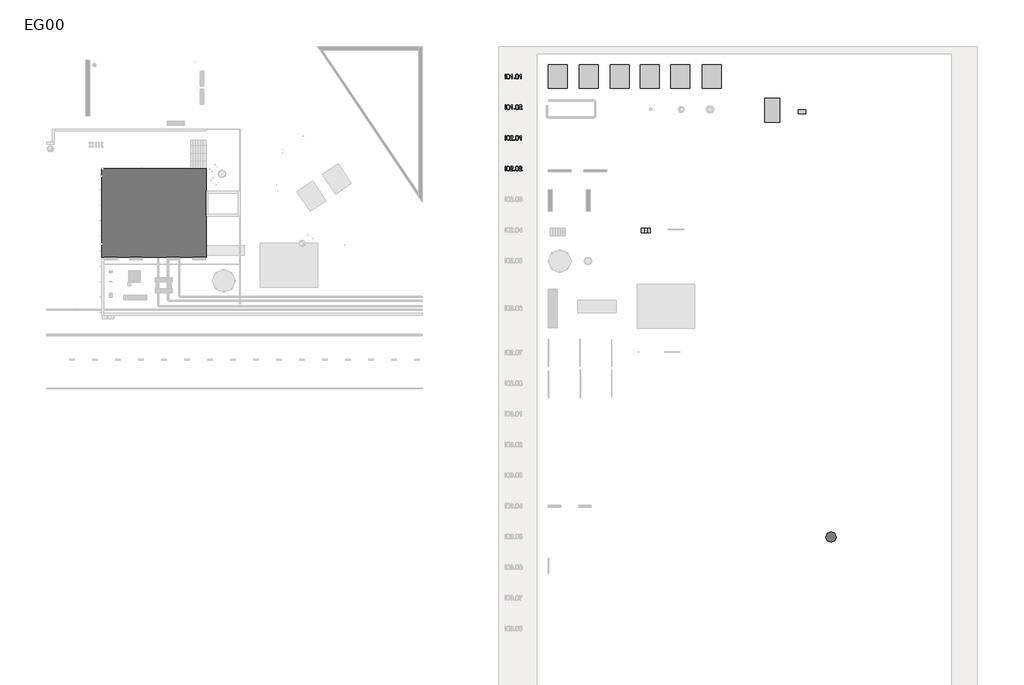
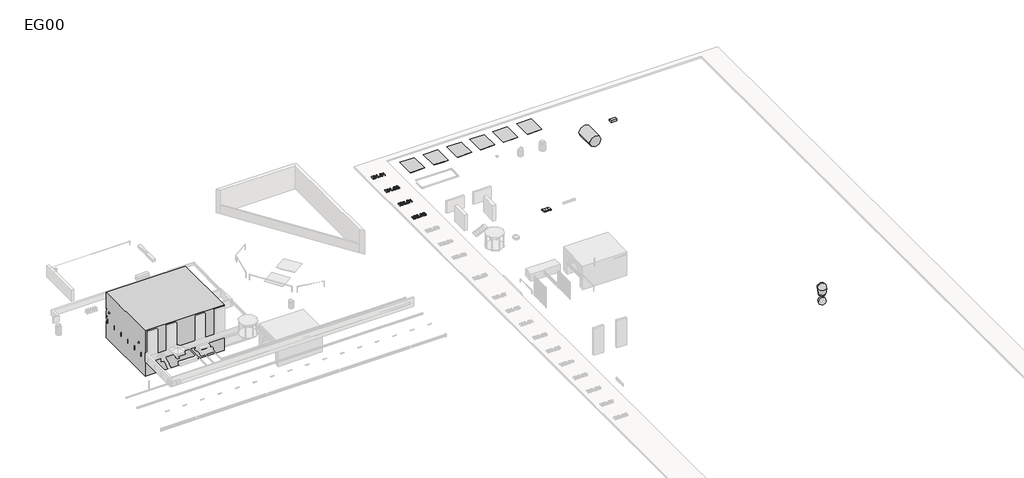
# One storey, part 11 of 11: 16 proxies, 1 geographic element.
"""IFC4 building model written with IfcOpenShell, lengths in millimetres."""

from ifc_helpers import new_model, si_unit, origin, origin_with_axes, place, context, project, spatial, polyline, outline, extrude, transform, mapped, element, save
from components import entourage_d020e230, generic_models_2e39bced, generic_models_d01fa1f0, generic_models_dca9c4f5, generic_models_00590af2, geographic_element_b5b1bfca

model = new_model("IFC4")

# Units and contexts
model_context = context("Model", 3, world=origin())
ifc_project = project(units=[si_unit("LENGTHUNIT", "METRE", prefix="MILLI")], contexts=[model_context])

# Site, building, storey
site = spatial("IfcSite", under=ifc_project)
building = spatial("IfcBuilding", under=site)
storey = spatial("IfcBuildingStorey", under=building, Name="EG00", Elevation=0.0)

# Proxies
placement = place(None, origin())
entourage_shape = entourage_d020e230(model_context)
element("IfcBuildingElementProxy", 1, Name="Umgebung_Blockstufe : Blockstufe", ObjectType="Umgebung_Blockstufe : Blockstufe", at=placement, inside=storey, context=model_context, shape_type="MappedRepresentation", body=[
    mapped(entourage_shape, transform((59229.2118759, -13539.8561498, 0.0), x_axis=(0.0, -1.0, 0.0), y_axis=(1.0, 0.0, 0.0), z_axis=(0.0, 0.0, 1.0))),
])
element("IfcBuildingElementProxy", 2, Name="Umgebung_Blockstufe : Blockstufe", ObjectType="Umgebung_Blockstufe : Blockstufe", at=placement, inside=storey, context=model_context, shape_type="MappedRepresentation", body=[
    mapped(entourage_shape, transform((59629.2118759, -13539.8561498, 0.0), x_axis=(0.0, -1.0, 0.0), y_axis=(1.0, 0.0, 0.0), z_axis=(0.0, 0.0, 1.0))),
])
element("IfcBuildingElementProxy", 3, Name="Umgebung_Blockstufe : Blockstufe", ObjectType="Umgebung_Blockstufe : Blockstufe", at=placement, inside=storey, context=model_context, shape_type="MappedRepresentation", body=[
    mapped(entourage_shape, transform((60029.2118759, -13539.8561498, 0.0), x_axis=(0.0, -1.0, 0.0), y_axis=(1.0, 0.0, 0.0), z_axis=(0.0, 0.0, 1.0))),
])
generic_models_shape = generic_models_2e39bced(model_context)
element("IfcBuildingElementProxy", 4, Name="Sickerpackung nach Schlammsammler : Sickerpackung nach Schlammsammler", ObjectType="Sickerpackung nach Schlammsammler : Sickerpackung nach Schlammsammler", at=placement, inside=storey, context=model_context, shape_type="MappedRepresentation", body=[
    mapped(generic_models_shape, transform((79824.829649, 1645.2181446, 0.0), x_axis=(-1.0, 0.0, 0.0), y_axis=(0.0, -1.0, 0.0), z_axis=(0.0, 0.0, 1.0))),
])
generic_models_2_shape = generic_models_d01fa1f0(model_context)
element("IfcBuildingElementProxy", 5, Name="Sickergalerie : Sickergalerie", ObjectType="Sickergalerie : Sickergalerie", at=placement, inside=storey, context=model_context, shape_type="MappedRepresentation", body=[
    mapped(generic_models_2_shape, transform((75933.272905, 266.1451304, 0.0), x_axis=(-1.0, 0.0, 0.0), y_axis=(0.0, -1.0, 0.0), z_axis=(0.0, 0.0, 1.0))),
])
generic_models_3_shape = generic_models_dca9c4f5(model_context)
element("IfcBuildingElementProxy", 6, Name="Auffüllung : Auffüllung", ObjectType="Auffüllung : Auffüllung", at=placement, inside=storey, context=model_context, shape_type="MappedRepresentation", body=[
    mapped(generic_models_3_shape, transform((69270.3941, 4674.1804992, 0.0), x_axis=(-1.0, 0.0, 0.0), y_axis=(0.0, -1.0, 0.0), z_axis=(0.0, 0.0, 1.0))),
])
element("IfcBuildingElementProxy", 7, Name="Bodenabtrag kontaminiert : Bodenabtrag kontaminiert", ObjectType="Bodenabtrag kontaminiert : Bodenabtrag kontaminiert", at=placement, inside=storey, context=model_context, shape_type="MappedRepresentation", body=[
    mapped(generic_models_3_shape, transform((61210.504948, 4674.1804992, 0.0), x_axis=(-1.0, 0.0, 0.0), y_axis=(0.0, -1.0, 0.0), z_axis=(0.0, 0.0, 1.0))),
])
element("IfcBuildingElementProxy", 8, Name="Bodenabtrag nicht kontaminiert : Bodenabtrag nicht kontaminiert", ObjectType="Bodenabtrag nicht kontaminiert : Bodenabtrag nicht kontaminiert", at=placement, inside=storey, context=model_context, shape_type="MappedRepresentation", body=[
    mapped(generic_models_3_shape, transform((57278.272905, 4674.1804992, 0.0), x_axis=(-1.0, 0.0, 0.0), y_axis=(0.0, -1.0, 0.0), z_axis=(0.0, 0.0, 1.0))),
])
element("IfcBuildingElementProxy", 9, Name="Aushub kontaminiert : Aushub kontaminiert", ObjectType="Aushub kontaminiert : Aushub kontaminiert", at=placement, inside=storey, context=model_context, shape_type="MappedRepresentation", body=[
    mapped(generic_models_3_shape, transform((53273.504948, 4674.1804992, 0.0), x_axis=(-1.0, 0.0, 0.0), y_axis=(0.0, -1.0, 0.0), z_axis=(0.0, 0.0, 1.0))),
])
element("IfcBuildingElementProxy", 10, Name="Bodenauftrag, Schüttung : Bodenauftrag, Schüttung", ObjectType="Bodenauftrag, Schüttung : Bodenauftrag, Schüttung", at=placement, inside=storey, context=model_context, shape_type="MappedRepresentation", body=[
    mapped(generic_models_3_shape, transform((65173.272905, 4674.1804992, 0.0), x_axis=(-1.0, 0.0, 0.0), y_axis=(0.0, -1.0, 0.0), z_axis=(0.0, 0.0, 1.0))),
])
element("IfcBuildingElementProxy", 11, Name="Aushub nicht kontaminiert : Aushub nicht kontaminiert", ObjectType="Aushub nicht kontaminiert : Aushub nicht kontaminiert", at=placement, inside=storey, context=model_context, shape_type="MappedRepresentation", body=[
    mapped(generic_models_3_shape, transform((49212.626143, 4674.1804992, 0.0), x_axis=(-1.0, 0.0, 0.0), y_axis=(0.0, -1.0, 0.0), z_axis=(0.0, 0.0, 1.0))),
])
generic_models_4_shape = generic_models_00590af2(model_context)
element("IfcBuildingElementProxy", 12, Name="Gebaude2 : Gebaude", ObjectType="Gebaude2 : Gebaude", at=placement, inside=storey, context=model_context, shape_type="MappedRepresentation", body=[
    mapped(generic_models_4_shape, transform((0.0, 0.0, 0.0), x_axis=(1.0, 0.0, 0.0), y_axis=(0.0, 1.0, 0.0), z_axis=(0.0, 0.0, 1.0))),
])
element("IfcBuildingElementProxy", 13, Name="600mm Arial", ObjectType="600mm Arial", at=placement, inside=storey, context=model_context, shape_type="SweptSolid", body=[
    extrude(outline(polyline([(41098.4530284, 5929.9470981), (41098.4530284, 6532.684959), (41173.795261, 6532.684959), (41173.795261, 5929.9470981), (41098.4530284, 5929.9470981)])), origin_with_axes(), (0.0, 0.0, 1.0), 150.0),
    extrude(outline(polyline([(41296.226389, 6226.4599863), (41301.763013, 6322.9370395), (41308.6837931, 6363.8501159), (41318.3728851, 6399.8795588), (41330.7889025, 6431.3196738), (41345.8904584, 6458.4647665), (41363.6775528, 6481.3148369), (41384.1501859, 6499.8698851), (41407.3773353, 6514.2264799), (41433.4279791, 6524.4811905), (41462.3021172, 6530.6340169), (41493.9997496, 6532.684959), (41540.4264574, 6527.8289167), (41581.9971229, 6513.2607897), (41616.7619714, 6489.5507951), (41642.7712285, 6457.26915), (41662.416127, 6416.691766), (41678.0879, 6368.0945544), (41688.3518077, 6306.3823497), (41691.7731102, 6226.4599863), (41686.2916685, 6130.534756), (41679.4398663, 6089.7596354), (41669.8473433, 6053.7761777), (41657.527895, 6022.3222671), (41642.495317, 5995.1357877), (41624.7496092, 5972.2167394), (41604.2907718, 5953.5651222), (41581.0360312, 5939.1119583), (41554.9026139, 5928.7882699), (41525.8905201, 5922.5940568), (41493.9997496, 5920.5293191), (41452.5026606, 5924.1161685), (41415.7144611, 5934.8767169), (41383.6351511, 5952.8109641), (41356.2647306, 5977.9189103), (41329.9979562, 6023.3063515), (41311.2359744, 6079.8590112), (41299.9787854, 6147.5768894), (41296.226389, 6226.4599863)]), holes=[polyline([(41371.5686216, 6226.6071391), (41373.7759136, 6161.1103483), (41380.3977895, 6108.0939543), (41391.4342494, 6067.557957), (41406.8852932, 6039.5023563), (41425.5736985, 6020.4138793), (41446.3222431, 6006.7792528), (41469.1309268, 5998.598477), (41493.9997496, 5995.8715517), (41518.8685725, 5998.607674), (41541.6772562, 6006.816041), (41562.4258007, 6020.4966527), (41581.1142061, 6039.6495091), (41596.5652499, 6067.751095), (41607.6017097, 6108.2778953), (41614.2235857, 6161.22991), (41616.4308776, 6226.6071391), (41614.2971621, 6290.3702859), (41607.8960153, 6342.4531793), (41597.2274375, 6382.8558195), (41582.2914285, 6411.5782062), (41563.9157228, 6431.6001838), (41542.928055, 6445.9015964), (41519.328425, 6454.4824439), (41493.1168328, 6457.3427264), (41468.3767687, 6454.8227348), (41445.9543611, 6447.2627598), (41425.84961, 6434.6628014), (41408.0625156, 6417.0228598), (41392.096437, 6385.7528902), (41380.6920951, 6343.5936135), (41373.84949, 6290.5450298), (41371.5686216, 6226.6071391)])]), origin_with_axes(), (0.0, 0.0, 1.0), 150.0),
    extrude(outline(polyline([(42040.2309361, 5929.9470981), (41964.8887035, 5929.9470981), (41964.8887035, 6399.6588296), (41933.4347929, 6374.2197896), (41893.5195964, 6348.8175378), (41851.6178371, 6326.6158594), (41814.2042382, 6310.7785395), (41814.2042382, 6382.0004938), (41873.3780572, 6414.1901684), (41924.6424132, 6452.4866841), (41965.0542504, 6493.211221), (41991.6705127, 6532.684959), (42040.2309361, 6532.684959), (42040.2309361, 5929.9470981)])), origin_with_axes(), (0.0, 0.0, 1.0), 150.0),
    extrude(outline(polyline([(42256.8398548, 5929.9470981), (42256.8398548, 6005.2893308), (42332.1820874, 6005.2893308), (42332.1820874, 5929.9470981), (42256.8398548, 5929.9470981)])), origin_with_axes(), (0.0, 0.0, 1.0), 150.0),
    extrude(outline(polyline([(42454.6132154, 6226.4599863), (42460.1498395, 6322.9370395), (42467.0706195, 6363.8501159), (42476.7597115, 6399.8795588), (42489.1757289, 6431.3196738), (42504.2772848, 6458.4647665), (42522.0643792, 6481.3148369), (42542.5370123, 6499.8698851), (42565.7641618, 6514.2264799), (42591.8148055, 6524.4811905), (42620.6889436, 6530.6340169), (42652.386576, 6532.684959), (42698.8132838, 6527.8289167), (42740.3839493, 6513.2607897), (42775.1487978, 6489.5507951), (42801.1580549, 6457.26915), (42820.8029534, 6416.691766), (42836.4747264, 6368.0945544), (42846.7386341, 6306.3823497), (42850.1599366, 6226.4599863), (42844.6784949, 6130.534756), (42837.8266928, 6089.7596354), (42828.2341697, 6053.7761777), (42815.9147214, 6022.3222671), (42800.8821434, 5995.1357877), (42783.1364357, 5972.2167394), (42762.6775982, 5953.5651222), (42739.4228576, 5939.1119583), (42713.2894403, 5928.7882699), (42684.2773465, 5922.5940568), (42652.386576, 5920.5293191), (42610.889487, 5924.1161685), (42574.1012875, 5934.8767169), (42542.0219775, 5952.8109641), (42514.651557, 5977.9189103), (42488.3847826, 6023.3063515), (42469.6228008, 6079.8590112), (42458.3656118, 6147.5768894), (42454.6132154, 6226.4599863)]), holes=[polyline([(42529.955448, 6226.6071391), (42532.16274, 6161.1103483), (42538.7846159, 6108.0939543), (42549.8210758, 6067.557957), (42565.2721196, 6039.5023563), (42583.9605249, 6020.4138793), (42604.7090695, 6006.7792528), (42627.5177532, 5998.598477), (42652.386576, 5995.8715517), (42677.2553989, 5998.607674), (42700.0640826, 6006.816041), (42720.8126271, 6020.4966527), (42739.5010325, 6039.6495091), (42754.9520763, 6067.751095), (42765.9885362, 6108.2778953), (42772.6104121, 6161.22991), (42774.817704, 6226.6071391), (42772.6839885, 6290.3702859), (42766.2828417, 6342.4531793), (42755.6142639, 6382.8558195), (42740.6782549, 6411.5782062), (42722.3025492, 6431.6001838), (42701.3148814, 6445.9015964), (42677.7152514, 6454.4824439), (42651.5036593, 6457.3427264), (42626.7635951, 6454.8227348), (42604.3411875, 6447.2627598), (42584.2364364, 6434.6628014), (42566.449342, 6417.0228598), (42550.4832634, 6385.7528902), (42539.0789215, 6343.5936135), (42532.2363164, 6290.5450298), (42529.955448, 6226.6071391)])]), origin_with_axes(), (0.0, 0.0, 1.0), 150.0),
    extrude(outline(polyline([(43198.6177625, 5929.9470981), (43123.2755299, 5929.9470981), (43123.2755299, 6399.6588296), (43091.8216193, 6374.2197896), (43051.9064228, 6348.8175378), (43010.0046636, 6326.6158594), (42972.5910646, 6310.7785395), (42972.5910646, 6382.0004938), (43031.7648836, 6414.1901684), (43083.0292396, 6452.4866841), (43123.4410768, 6493.211221), (43150.0573391, 6532.684959), (43198.6177625, 6532.684959), (43198.6177625, 5929.9470981)])), origin_with_axes(), (0.0, 0.0, 1.0), 150.0),
])
element("IfcBuildingElementProxy", 14, Name="600mm Arial", ObjectType="600mm Arial", at=placement, inside=storey, context=model_context, shape_type="SweptSolid", body=[
    extrude(outline(polyline([(41098.4530284, 1929.9470981), (41098.4530284, 2532.684959), (41173.795261, 2532.684959), (41173.795261, 1929.9470981), (41098.4530284, 1929.9470981)])), origin_with_axes(), (0.0, 0.0, 1.0), 150.0),
    extrude(outline(polyline([(41296.226389, 2226.4599863), (41301.763013, 2322.9370395), (41308.6837931, 2363.8501159), (41318.3728851, 2399.8795588), (41330.7889025, 2431.3196738), (41345.8904584, 2458.4647665), (41363.6775528, 2481.3148369), (41384.1501859, 2499.8698851), (41407.3773353, 2514.2264799), (41433.4279791, 2524.4811905), (41462.3021172, 2530.6340169), (41493.9997496, 2532.684959), (41540.4264574, 2527.8289167), (41581.9971229, 2513.2607897), (41616.7619714, 2489.5507951), (41642.7712285, 2457.26915), (41662.416127, 2416.691766), (41678.0879, 2368.0945544), (41688.3518077, 2306.3823497), (41691.7731102, 2226.4599863), (41686.2916685, 2130.534756), (41679.4398663, 2089.7596354), (41669.8473433, 2053.7761777), (41657.527895, 2022.3222671), (41642.495317, 1995.1357877), (41624.7496092, 1972.2167394), (41604.2907718, 1953.5651222), (41581.0360312, 1939.1119583), (41554.9026139, 1928.7882699), (41525.8905201, 1922.5940568), (41493.9997496, 1920.5293191), (41452.5026606, 1924.1161685), (41415.7144611, 1934.8767169), (41383.6351511, 1952.8109641), (41356.2647306, 1977.9189103), (41329.9979562, 2023.3063515), (41311.2359744, 2079.8590112), (41299.9787854, 2147.5768894), (41296.226389, 2226.4599863)]), holes=[polyline([(41371.5686216, 2226.6071391), (41373.7759136, 2161.1103483), (41380.3977895, 2108.0939543), (41391.4342494, 2067.557957), (41406.8852932, 2039.5023563), (41425.5736985, 2020.4138793), (41446.3222431, 2006.7792528), (41469.1309268, 1998.598477), (41493.9997496, 1995.8715517), (41518.8685725, 1998.607674), (41541.6772562, 2006.816041), (41562.4258007, 2020.4966527), (41581.1142061, 2039.6495091), (41596.5652499, 2067.751095), (41607.6017097, 2108.2778953), (41614.2235857, 2161.22991), (41616.4308776, 2226.6071391), (41614.2971621, 2290.3702859), (41607.8960153, 2342.4531793), (41597.2274375, 2382.8558195), (41582.2914285, 2411.5782062), (41563.9157228, 2431.6001838), (41542.928055, 2445.9015964), (41519.328425, 2454.4824439), (41493.1168328, 2457.3427264), (41468.3767687, 2454.8227348), (41445.9543611, 2447.2627598), (41425.84961, 2434.6628014), (41408.0625156, 2417.0228598), (41392.096437, 2385.7528902), (41380.6920951, 2343.5936135), (41373.84949, 2290.5450298), (41371.5686216, 2226.6071391)])]), origin_with_axes(), (0.0, 0.0, 1.0), 150.0),
    extrude(outline(polyline([(42040.2309361, 1929.9470981), (41964.8887035, 1929.9470981), (41964.8887035, 2399.6588296), (41933.4347929, 2374.2197896), (41893.5195964, 2348.8175378), (41851.6178371, 2326.6158594), (41814.2042382, 2310.7785395), (41814.2042382, 2382.0004938), (41873.3780572, 2414.1901684), (41924.6424132, 2452.4866841), (41965.0542504, 2493.211221), (41991.6705127, 2532.684959), (42040.2309361, 2532.684959), (42040.2309361, 1929.9470981)])), origin_with_axes(), (0.0, 0.0, 1.0), 150.0),
    extrude(outline(polyline([(42256.8398548, 1929.9470981), (42256.8398548, 2005.2893308), (42332.1820874, 2005.2893308), (42332.1820874, 1929.9470981), (42256.8398548, 1929.9470981)])), origin_with_axes(), (0.0, 0.0, 1.0), 150.0),
    extrude(outline(polyline([(42454.6132154, 2226.4599863), (42460.1498395, 2322.9370395), (42467.0706195, 2363.8501159), (42476.7597115, 2399.8795588), (42489.1757289, 2431.3196738), (42504.2772848, 2458.4647665), (42522.0643792, 2481.3148369), (42542.5370123, 2499.8698851), (42565.7641618, 2514.2264799), (42591.8148055, 2524.4811905), (42620.6889436, 2530.6340169), (42652.386576, 2532.684959), (42698.8132838, 2527.8289167), (42740.3839493, 2513.2607897), (42775.1487978, 2489.5507951), (42801.1580549, 2457.26915), (42820.8029534, 2416.691766), (42836.4747264, 2368.0945544), (42846.7386341, 2306.3823497), (42850.1599366, 2226.4599863), (42844.6784949, 2130.534756), (42837.8266928, 2089.7596354), (42828.2341697, 2053.7761777), (42815.9147214, 2022.3222671), (42800.8821434, 1995.1357877), (42783.1364357, 1972.2167394), (42762.6775982, 1953.5651222), (42739.4228576, 1939.1119583), (42713.2894403, 1928.7882699), (42684.2773465, 1922.5940568), (42652.386576, 1920.5293191), (42610.889487, 1924.1161685), (42574.1012875, 1934.8767169), (42542.0219775, 1952.8109641), (42514.651557, 1977.9189103), (42488.3847826, 2023.3063515), (42469.6228008, 2079.8590112), (42458.3656118, 2147.5768894), (42454.6132154, 2226.4599863)]), holes=[polyline([(42529.955448, 2226.6071391), (42532.16274, 2161.1103483), (42538.7846159, 2108.0939543), (42549.8210758, 2067.557957), (42565.2721196, 2039.5023563), (42583.9605249, 2020.4138793), (42604.7090695, 2006.7792528), (42627.5177532, 1998.598477), (42652.386576, 1995.8715517), (42677.2553989, 1998.607674), (42700.0640826, 2006.816041), (42720.8126271, 2020.4966527), (42739.5010325, 2039.6495091), (42754.9520763, 2067.751095), (42765.9885362, 2108.2778953), (42772.6104121, 2161.22991), (42774.817704, 2226.6071391), (42772.6839885, 2290.3702859), (42766.2828417, 2342.4531793), (42755.6142639, 2382.8558195), (42740.6782549, 2411.5782062), (42722.3025492, 2431.6001838), (42701.3148814, 2445.9015964), (42677.7152514, 2454.4824439), (42651.5036593, 2457.3427264), (42626.7635951, 2454.8227348), (42604.3411875, 2447.2627598), (42584.2364364, 2434.6628014), (42566.449342, 2417.0228598), (42550.4832634, 2385.7528902), (42539.0789215, 2343.5936135), (42532.2363164, 2290.5450298), (42529.955448, 2226.6071391)])]), origin_with_axes(), (0.0, 0.0, 1.0), 150.0),
    extrude(outline(polyline([(43302.2133323, 2005.2893308), (43302.2133323, 1929.9470981), (42906.6666111, 1929.9470981), (42908.3220801, 1956.47139), (42914.760015, 1981.8920359), (42933.3380558, 2022.487814), (42960.5245352, 2061.8695816), (42999.8511205, 2103.0907592), (43054.8494788, 2149.2047673), (43136.1513997, 2221.4200029), (43184.9325523, 2274.726104), (43199.1603884, 2296.5047181), (43209.3231285, 2317.9890267), (43215.4207726, 2339.1790296), (43217.4533206, 2360.0747269), (43215.5357357, 2379.733421), (43209.782981, 2397.8010255), (43200.1950565, 2414.2775404), (43186.7719622, 2429.1629656), (43170.2586592, 2441.491611), (43151.4001084, 2450.2977862), (43130.1963099, 2455.5814914), (43106.6472637, 2457.3427264), (43081.8382216, 2455.6228781), (43059.6503388, 2450.4633331), (43040.0836152, 2441.8640915), (43023.1380508, 2429.8251532), (43009.4298479, 2414.7511884), (42999.575209, 2397.0468674), (42993.5741339, 2376.7121901), (42991.4266228, 2353.7471566), (42916.0843902, 2363.1649357), (42922.5637118, 2402.0592596), (42934.3497312, 2436.0423589), (42951.4424484, 2465.1142336), (42973.8418634, 2489.2748836), (43001.0329414, 2508.2667916), (43032.5006476, 2521.8324402), (43068.2449819, 2529.9718293), (43108.2659445, 2532.684959), (43148.645592, 2529.6683267), (43184.5830644, 2520.6184296), (43216.0783617, 2505.5352678), (43243.1314839, 2484.4188413), (43264.8595142, 2458.8326485), (43280.3795359, 2430.340188), (43289.6915489, 2398.9414597), (43292.7955532, 2364.6364636), (43289.4478271, 2328.6024222), (43279.4046486, 2293.1937802), (43261.580766, 2257.1781328), (43234.8909272, 2219.3230755), (43192.3453745, 2174.1287724), (43126.9543498, 2116.0953877), (43040.2813518, 2043.6226346), (43006.2890554, 2005.2893308), (43302.2133323, 2005.2893308)])), origin_with_axes(), (0.0, 0.0, 1.0), 150.0),
])
element("IfcBuildingElementProxy", 15, Name="600mm Arial", ObjectType="600mm Arial", at=placement, inside=storey, context=model_context, shape_type="SweptSolid", body=[
    extrude(outline(polyline([(41098.4530284, -2070.0529019), (41098.4530284, -1467.315041), (41173.795261, -1467.315041), (41173.795261, -2070.0529019), (41098.4530284, -2070.0529019)])), origin_with_axes(), (0.0, 0.0, 1.0), 150.0),
    extrude(outline(polyline([(41296.226389, -1773.5400137), (41301.763013, -1677.0629605), (41308.6837931, -1636.1498841), (41318.3728851, -1600.1204412), (41330.7889025, -1568.6803262), (41345.8904584, -1541.5352335), (41363.6775528, -1518.6851631), (41384.1501859, -1500.1301149), (41407.3773353, -1485.7735201), (41433.4279791, -1475.5188095), (41462.3021172, -1469.3659831), (41493.9997496, -1467.315041), (41540.4264574, -1472.1710833), (41581.9971229, -1486.7392103), (41616.7619714, -1510.4492049), (41642.7712285, -1542.73085), (41662.416127, -1583.308234), (41678.0879, -1631.9054456), (41688.3518077, -1693.6176503), (41691.7731102, -1773.5400137), (41686.2916685, -1869.465244), (41679.4398663, -1910.2403646), (41669.8473433, -1946.2238223), (41657.527895, -1977.6777329), (41642.495317, -2004.8642123), (41624.7496092, -2027.7832606), (41604.2907718, -2046.4348778), (41581.0360312, -2060.8880417), (41554.9026139, -2071.2117301), (41525.8905201, -2077.4059432), (41493.9997496, -2079.4706809), (41452.5026606, -2075.8838315), (41415.7144611, -2065.1232831), (41383.6351511, -2047.1890359), (41356.2647306, -2022.0810897), (41329.9979562, -1976.6936485), (41311.2359744, -1920.1409888), (41299.9787854, -1852.4231106), (41296.226389, -1773.5400137)]), holes=[polyline([(41371.5686216, -1773.3928609), (41373.7759136, -1838.8896517), (41380.3977895, -1891.9060457), (41391.4342494, -1932.442043), (41406.8852932, -1960.4976437), (41425.5736985, -1979.5861207), (41446.3222431, -1993.2207472), (41469.1309268, -2001.401523), (41493.9997496, -2004.1284483), (41518.8685725, -2001.392326), (41541.6772562, -1993.183959), (41562.4258007, -1979.5033473), (41581.1142061, -1960.3504909), (41596.5652499, -1932.248905), (41607.6017097, -1891.7221047), (41614.2235857, -1838.77009), (41616.4308776, -1773.3928609), (41614.2971621, -1709.6297141), (41607.8960153, -1657.5468207), (41597.2274375, -1617.1441805), (41582.2914285, -1588.4217938), (41563.9157228, -1568.3998162), (41542.928055, -1554.0984036), (41519.328425, -1545.5175561), (41493.1168328, -1542.6572736), (41468.3767687, -1545.1772652), (41445.9543611, -1552.7372402), (41425.84961, -1565.3371986), (41408.0625156, -1582.9771402), (41392.096437, -1614.2471098), (41380.6920951, -1656.4063865), (41373.84949, -1709.4549702), (41371.5686216, -1773.3928609)])]), origin_with_axes(), (0.0, 0.0, 1.0), 150.0),
    extrude(outline(polyline([(42143.8265059, -1994.7106692), (42143.8265059, -2070.0529019), (41748.2797847, -2070.0529019), (41749.9352537, -2043.52861), (41756.3731886, -2018.1079641), (41774.9512293, -1977.512186), (41802.1377088, -1938.1304184), (41841.4642941, -1896.9092408), (41896.4626524, -1850.7952327), (41977.7645733, -1778.5799971), (42026.5457258, -1725.273896), (42040.773562, -1703.4952819), (42050.9363021, -1682.0109733), (42057.0339462, -1660.8209704), (42059.0664942, -1639.9252731), (42057.1489093, -1620.266579), (42051.3961546, -1602.1989745), (42041.8082301, -1585.7224596), (42028.3851358, -1570.8370344), (42011.8718328, -1558.508389), (41993.013282, -1549.7022138), (41971.8094835, -1544.4185086), (41948.2604373, -1542.6572736), (41923.4513952, -1544.3771219), (41901.2635124, -1549.5366669), (41881.6967888, -1558.1359085), (41864.7512244, -1570.1748468), (41851.0430215, -1585.2488116), (41841.1883826, -1602.9531326), (41835.1873075, -1623.2878099), (41833.0397964, -1646.2528434), (41757.6975638, -1636.8350643), (41764.1768854, -1597.9407404), (41775.9629048, -1563.9576411), (41793.055622, -1534.8857664), (41815.455037, -1510.7251164), (41842.646115, -1491.7332084), (41874.1138211, -1478.1675598), (41909.8581555, -1470.0281707), (41949.8791181, -1467.315041), (41990.2587655, -1470.3316733), (42026.1962379, -1479.3815704), (42057.6915353, -1494.4647322), (42084.7446575, -1515.5811587), (42106.4726878, -1541.1673515), (42121.9927095, -1569.659812), (42131.3047225, -1601.0585403), (42134.4087268, -1635.3635364), (42131.0610007, -1671.3975778), (42121.0178222, -1706.8062198), (42103.1939395, -1742.8218672), (42076.5041008, -1780.6769245), (42033.958548, -1825.8712276), (41968.5675234, -1883.9046123), (41881.8945253, -1956.3773654), (41847.902229, -1994.7106692), (42143.8265059, -1994.7106692)])), origin_with_axes(), (0.0, 0.0, 1.0), 150.0),
    extrude(outline(polyline([(42256.8398548, -2070.0529019), (42256.8398548, -1994.7106692), (42332.1820874, -1994.7106692), (42332.1820874, -2070.0529019), (42256.8398548, -2070.0529019)])), origin_with_axes(), (0.0, 0.0, 1.0), 150.0),
    extrude(outline(polyline([(42454.6132154, -1773.5400137), (42460.1498395, -1677.0629605), (42467.0706195, -1636.1498841), (42476.7597115, -1600.1204412), (42489.1757289, -1568.6803262), (42504.2772848, -1541.5352335), (42522.0643792, -1518.6851631), (42542.5370123, -1500.1301149), (42565.7641618, -1485.7735201), (42591.8148055, -1475.5188095), (42620.6889436, -1469.3659831), (42652.386576, -1467.315041), (42698.8132838, -1472.1710833), (42740.3839493, -1486.7392103), (42775.1487978, -1510.4492049), (42801.1580549, -1542.73085), (42820.8029534, -1583.308234), (42836.4747264, -1631.9054456), (42846.7386341, -1693.6176503), (42850.1599366, -1773.5400137), (42844.6784949, -1869.465244), (42837.8266928, -1910.2403646), (42828.2341697, -1946.2238223), (42815.9147214, -1977.6777329), (42800.8821434, -2004.8642123), (42783.1364357, -2027.7832606), (42762.6775982, -2046.4348778), (42739.4228576, -2060.8880417), (42713.2894403, -2071.2117301), (42684.2773465, -2077.4059432), (42652.386576, -2079.4706809), (42610.889487, -2075.8838315), (42574.1012875, -2065.1232831), (42542.0219775, -2047.1890359), (42514.651557, -2022.0810897), (42488.3847826, -1976.6936485), (42469.6228008, -1920.1409888), (42458.3656118, -1852.4231106), (42454.6132154, -1773.5400137)]), holes=[polyline([(42529.955448, -1773.3928609), (42532.16274, -1838.8896517), (42538.7846159, -1891.9060457), (42549.8210758, -1932.442043), (42565.2721196, -1960.4976437), (42583.9605249, -1979.5861207), (42604.7090695, -1993.2207472), (42627.5177532, -2001.401523), (42652.386576, -2004.1284483), (42677.2553989, -2001.392326), (42700.0640826, -1993.183959), (42720.8126271, -1979.5033473), (42739.5010325, -1960.3504909), (42754.9520763, -1932.248905), (42765.9885362, -1891.7221047), (42772.6104121, -1838.77009), (42774.817704, -1773.3928609), (42772.6839885, -1709.6297141), (42766.2828417, -1657.5468207), (42755.6142639, -1617.1441805), (42740.6782549, -1588.4217938), (42722.3025492, -1568.3998162), (42701.3148814, -1554.0984036), (42677.7152514, -1545.5175561), (42651.5036593, -1542.6572736), (42626.7635951, -1545.1772652), (42604.3411875, -1552.7372402), (42584.2364364, -1565.3371986), (42566.449342, -1582.9771402), (42550.4832634, -1614.2471098), (42539.0789215, -1656.4063865), (42532.2363164, -1709.4549702), (42529.955448, -1773.3928609)])]), origin_with_axes(), (0.0, 0.0, 1.0), 150.0),
    extrude(outline(polyline([(43198.6177625, -2070.0529019), (43123.2755299, -2070.0529019), (43123.2755299, -1600.3411704), (43091.8216193, -1625.7802104), (43051.9064228, -1651.1824622), (43010.0046636, -1673.3841406), (42972.5910646, -1689.2214605), (42972.5910646, -1617.9995062), (43031.7648836, -1585.8098316), (43083.0292396, -1547.5133159), (43123.4410768, -1506.788779), (43150.0573391, -1467.315041), (43198.6177625, -1467.315041), (43198.6177625, -2070.0529019)])), origin_with_axes(), (0.0, 0.0, 1.0), 150.0),
])
element("IfcBuildingElementProxy", 16, Name="600mm Arial", ObjectType="600mm Arial", at=placement, inside=storey, context=model_context, shape_type="SweptSolid", body=[
    extrude(outline(polyline([(41098.4530284, -6070.0529019), (41098.4530284, -5467.315041), (41173.795261, -5467.315041), (41173.795261, -6070.0529019), (41098.4530284, -6070.0529019)])), origin_with_axes(), (0.0, 0.0, 1.0), 150.0),
    extrude(outline(polyline([(41296.226389, -5773.5400137), (41301.763013, -5677.0629605), (41308.6837931, -5636.1498841), (41318.3728851, -5600.1204412), (41330.7889025, -5568.6803262), (41345.8904584, -5541.5352335), (41363.6775528, -5518.6851631), (41384.1501859, -5500.1301149), (41407.3773353, -5485.7735201), (41433.4279791, -5475.5188095), (41462.3021172, -5469.3659831), (41493.9997496, -5467.315041), (41540.4264574, -5472.1710833), (41581.9971229, -5486.7392103), (41616.7619714, -5510.4492049), (41642.7712285, -5542.73085), (41662.416127, -5583.308234), (41678.0879, -5631.9054456), (41688.3518077, -5693.6176503), (41691.7731102, -5773.5400137), (41686.2916685, -5869.465244), (41679.4398663, -5910.2403646), (41669.8473433, -5946.2238223), (41657.527895, -5977.6777329), (41642.495317, -6004.8642123), (41624.7496092, -6027.7832606), (41604.2907718, -6046.4348778), (41581.0360312, -6060.8880417), (41554.9026139, -6071.2117301), (41525.8905201, -6077.4059432), (41493.9997496, -6079.4706809), (41452.5026606, -6075.8838315), (41415.7144611, -6065.1232831), (41383.6351511, -6047.1890359), (41356.2647306, -6022.0810897), (41329.9979562, -5976.6936485), (41311.2359744, -5920.1409888), (41299.9787854, -5852.4231106), (41296.226389, -5773.5400137)]), holes=[polyline([(41371.5686216, -5773.3928609), (41373.7759136, -5838.8896517), (41380.3977895, -5891.9060457), (41391.4342494, -5932.442043), (41406.8852932, -5960.4976437), (41425.5736985, -5979.5861207), (41446.3222431, -5993.2207472), (41469.1309268, -6001.401523), (41493.9997496, -6004.1284483), (41518.8685725, -6001.392326), (41541.6772562, -5993.183959), (41562.4258007, -5979.5033473), (41581.1142061, -5960.3504909), (41596.5652499, -5932.248905), (41607.6017097, -5891.7221047), (41614.2235857, -5838.77009), (41616.4308776, -5773.3928609), (41614.2971621, -5709.6297141), (41607.8960153, -5657.5468207), (41597.2274375, -5617.1441805), (41582.2914285, -5588.4217938), (41563.9157228, -5568.3998162), (41542.928055, -5554.0984036), (41519.328425, -5545.5175561), (41493.1168328, -5542.6572736), (41468.3767687, -5545.1772652), (41445.9543611, -5552.7372402), (41425.84961, -5565.3371986), (41408.0625156, -5582.9771402), (41392.096437, -5614.2471098), (41380.6920951, -5656.4063865), (41373.84949, -5709.4549702), (41371.5686216, -5773.3928609)])]), origin_with_axes(), (0.0, 0.0, 1.0), 150.0),
    extrude(outline(polyline([(42143.8265059, -5994.7106692), (42143.8265059, -6070.0529019), (41748.2797847, -6070.0529019), (41749.9352537, -6043.52861), (41756.3731886, -6018.1079641), (41774.9512293, -5977.512186), (41802.1377088, -5938.1304184), (41841.4642941, -5896.9092408), (41896.4626524, -5850.7952327), (41977.7645733, -5778.5799971), (42026.5457258, -5725.273896), (42040.773562, -5703.4952819), (42050.9363021, -5682.0109733), (42057.0339462, -5660.8209704), (42059.0664942, -5639.9252731), (42057.1489093, -5620.266579), (42051.3961546, -5602.1989745), (42041.8082301, -5585.7224596), (42028.3851358, -5570.8370344), (42011.8718328, -5558.508389), (41993.013282, -5549.7022138), (41971.8094835, -5544.4185086), (41948.2604373, -5542.6572736), (41923.4513952, -5544.3771219), (41901.2635124, -5549.5366669), (41881.6967888, -5558.1359085), (41864.7512244, -5570.1748468), (41851.0430215, -5585.2488116), (41841.1883826, -5602.9531326), (41835.1873075, -5623.2878099), (41833.0397964, -5646.2528434), (41757.6975638, -5636.8350643), (41764.1768854, -5597.9407404), (41775.9629048, -5563.9576411), (41793.055622, -5534.8857664), (41815.455037, -5510.7251164), (41842.646115, -5491.7332084), (41874.1138211, -5478.1675598), (41909.8581555, -5470.0281707), (41949.8791181, -5467.315041), (41990.2587655, -5470.3316733), (42026.1962379, -5479.3815704), (42057.6915353, -5494.4647322), (42084.7446575, -5515.5811587), (42106.4726878, -5541.1673515), (42121.9927095, -5569.659812), (42131.3047225, -5601.0585403), (42134.4087268, -5635.3635364), (42131.0610007, -5671.3975778), (42121.0178222, -5706.8062198), (42103.1939395, -5742.8218672), (42076.5041008, -5780.6769245), (42033.958548, -5825.8712276), (41968.5675234, -5883.9046123), (41881.8945253, -5956.3773654), (41847.902229, -5994.7106692), (42143.8265059, -5994.7106692)])), origin_with_axes(), (0.0, 0.0, 1.0), 150.0),
    extrude(outline(polyline([(42256.8398548, -6070.0529019), (42256.8398548, -5994.7106692), (42332.1820874, -5994.7106692), (42332.1820874, -6070.0529019), (42256.8398548, -6070.0529019)])), origin_with_axes(), (0.0, 0.0, 1.0), 150.0),
    extrude(outline(polyline([(42454.6132154, -5773.5400137), (42460.1498395, -5677.0629605), (42467.0706195, -5636.1498841), (42476.7597115, -5600.1204412), (42489.1757289, -5568.6803262), (42504.2772848, -5541.5352335), (42522.0643792, -5518.6851631), (42542.5370123, -5500.1301149), (42565.7641618, -5485.7735201), (42591.8148055, -5475.5188095), (42620.6889436, -5469.3659831), (42652.386576, -5467.315041), (42698.8132838, -5472.1710833), (42740.3839493, -5486.7392103), (42775.1487978, -5510.4492049), (42801.1580549, -5542.73085), (42820.8029534, -5583.308234), (42836.4747264, -5631.9054456), (42846.7386341, -5693.6176503), (42850.1599366, -5773.5400137), (42844.6784949, -5869.465244), (42837.8266928, -5910.2403646), (42828.2341697, -5946.2238223), (42815.9147214, -5977.6777329), (42800.8821434, -6004.8642123), (42783.1364357, -6027.7832606), (42762.6775982, -6046.4348778), (42739.4228576, -6060.8880417), (42713.2894403, -6071.2117301), (42684.2773465, -6077.4059432), (42652.386576, -6079.4706809), (42610.889487, -6075.8838315), (42574.1012875, -6065.1232831), (42542.0219775, -6047.1890359), (42514.651557, -6022.0810897), (42488.3847826, -5976.6936485), (42469.6228008, -5920.1409888), (42458.3656118, -5852.4231106), (42454.6132154, -5773.5400137)]), holes=[polyline([(42529.955448, -5773.3928609), (42532.16274, -5838.8896517), (42538.7846159, -5891.9060457), (42549.8210758, -5932.442043), (42565.2721196, -5960.4976437), (42583.9605249, -5979.5861207), (42604.7090695, -5993.2207472), (42627.5177532, -6001.401523), (42652.386576, -6004.1284483), (42677.2553989, -6001.392326), (42700.0640826, -5993.183959), (42720.8126271, -5979.5033473), (42739.5010325, -5960.3504909), (42754.9520763, -5932.248905), (42765.9885362, -5891.7221047), (42772.6104121, -5838.77009), (42774.817704, -5773.3928609), (42772.6839885, -5709.6297141), (42766.2828417, -5657.5468207), (42755.6142639, -5617.1441805), (42740.6782549, -5588.4217938), (42722.3025492, -5568.3998162), (42701.3148814, -5554.0984036), (42677.7152514, -5545.5175561), (42651.5036593, -5542.6572736), (42626.7635951, -5545.1772652), (42604.3411875, -5552.7372402), (42584.2364364, -5565.3371986), (42566.449342, -5582.9771402), (42550.4832634, -5614.2471098), (42539.0789215, -5656.4063865), (42532.2363164, -5709.4549702), (42529.955448, -5773.3928609)])]), origin_with_axes(), (0.0, 0.0, 1.0), 150.0),
    extrude(outline(polyline([(43302.2133323, -5994.7106692), (43302.2133323, -6070.0529019), (42906.6666111, -6070.0529019), (42908.3220801, -6043.52861), (42914.760015, -6018.1079641), (42933.3380558, -5977.512186), (42960.5245352, -5938.1304184), (42999.8511205, -5896.9092408), (43054.8494788, -5850.7952327), (43136.1513997, -5778.5799971), (43184.9325523, -5725.273896), (43199.1603884, -5703.4952819), (43209.3231285, -5682.0109733), (43215.4207726, -5660.8209704), (43217.4533206, -5639.9252731), (43215.5357357, -5620.266579), (43209.782981, -5602.1989745), (43200.1950565, -5585.7224596), (43186.7719622, -5570.8370344), (43170.2586592, -5558.508389), (43151.4001084, -5549.7022138), (43130.1963099, -5544.4185086), (43106.6472637, -5542.6572736), (43081.8382216, -5544.3771219), (43059.6503388, -5549.5366669), (43040.0836152, -5558.1359085), (43023.1380508, -5570.1748468), (43009.4298479, -5585.2488116), (42999.575209, -5602.9531326), (42993.5741339, -5623.2878099), (42991.4266228, -5646.2528434), (42916.0843902, -5636.8350643), (42922.5637118, -5597.9407404), (42934.3497312, -5563.9576411), (42951.4424484, -5534.8857664), (42973.8418634, -5510.7251164), (43001.0329414, -5491.7332084), (43032.5006476, -5478.1675598), (43068.2449819, -5470.0281707), (43108.2659445, -5467.315041), (43148.645592, -5470.3316733), (43184.5830644, -5479.3815704), (43216.0783617, -5494.4647322), (43243.1314839, -5515.5811587), (43264.8595142, -5541.1673515), (43280.3795359, -5569.659812), (43289.6915489, -5601.0585403), (43292.7955532, -5635.3635364), (43289.4478271, -5671.3975778), (43279.4046486, -5706.8062198), (43261.580766, -5742.8218672), (43234.8909272, -5780.6769245), (43192.3453745, -5825.8712276), (43126.9543498, -5883.9046123), (43040.2813518, -5956.3773654), (43006.2890554, -5994.7106692), (43302.2133323, -5994.7106692)])), origin_with_axes(), (0.0, 0.0, 1.0), 150.0),
])

# Geographic element
geographic_element_shape = geographic_element_b5b1bfca(model_context)
element("IfcGeographicElement", 17, ObjectType="Strauch Klein : Strauch Klein", at=placement, inside=storey, context=model_context, shape_type="MappedRepresentation", body=[
    mapped(geographic_element_shape, transform((83614.9521937, -53843.697095, 0.0), x_axis=(-1.0, 0.0, 0.0), y_axis=(0.0, -1.0, 0.0), z_axis=(0.0, 0.0, 1.0))),
])

save(model, "model.ifc")
